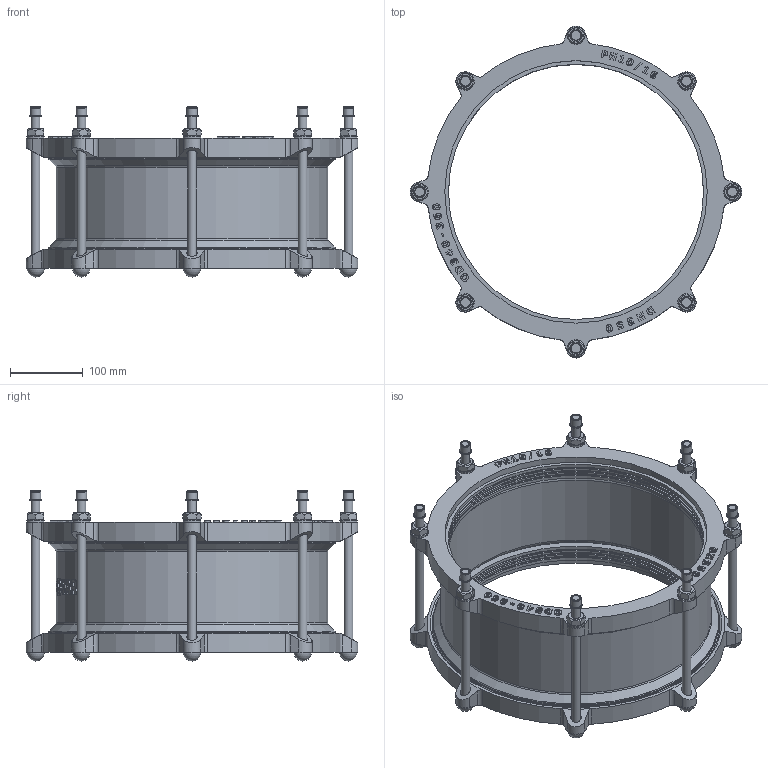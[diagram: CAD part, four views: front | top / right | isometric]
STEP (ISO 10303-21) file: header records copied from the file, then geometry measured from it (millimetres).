
FILE_DESCRIPTION(('STEP AP203'), '1');
FILE_NAME('Cîåäèíèòåëüíàÿ ìóôòà äëÿ æåñòêèõ òðóá', '', ('UNSPECIFIED'), ('UNSPECIFIED'), 'C3D Converter', 'C3D Toolkit', '');
FILE_SCHEMA(('CONFIG_CONTROL_DESIGN'));
Length unit declared in the file: millimetre
Assembly tree (37 placements, depth 2):
  (unnamed)
    (unnamed)
    (unnamed)  x8
    (unnamed)  x8
    (unnamed)  x8
    (unnamed)  x8
    (unnamed)
    (unnamed)
    (unnamed)  x2
Bounding box: 455 x 455 x 233.2 mm (x, y, z)
Volume: 3107500.2 mm3; surface area: 972247.5 mm2
Topology: 41 solids, 41 shells, 1043 faces, 2597 edges, 1702 vertices
Faces by surface type: extrusion 404, plane 370, cylinder 173, cone 62, torus 26, sphere 8
Full cylindrical faces by diameter (mm): 12 x24, 13 x8, 14 x16, 14.4 x8, 16.8 x8, 23.29 x1, 24 x8, 350 x8, 355 x6, 360 x3, 366 x2, 372 x3, 393 x2, 396 x4
Entity records: 39138 total; most frequent: CARTESIAN_POINT 14815, ORIENTED_EDGE 4198, DIRECTION 2669, EDGE_CURVE 2099, VERTEX_POINT 1428, VECTOR 1335, B_SPLINE_CURVE_WITH_KNOTS 1323, EDGE_LOOP 985
